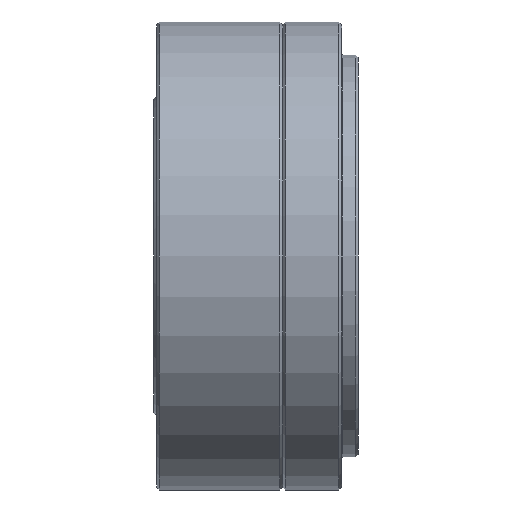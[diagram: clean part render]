
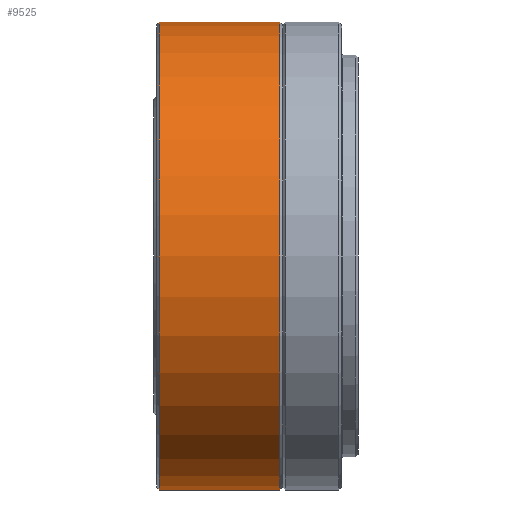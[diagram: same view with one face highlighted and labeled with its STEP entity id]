
A CAD part, front view. The second image highlights one B-rep face of the part: STEP entity #9525.
In plain terms, the highlighted cylindrical face has radius 42.5 mm (diameter 85 mm), a full revolution.
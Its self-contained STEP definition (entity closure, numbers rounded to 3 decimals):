
#161 = CARTESIAN_POINT ( 'NONE',  ( -0.5, 0., 42.5 ) ) ;
#904 = ORIENTED_EDGE ( 'NONE', *, *, #3894, .T. ) ;
#953 = DIRECTION ( 'NONE',  ( 1., 0., 0. ) ) ;
#1112 = ORIENTED_EDGE ( 'NONE', *, *, #9585, .T. ) ;
#1880 = CARTESIAN_POINT ( 'NONE',  ( -22.4, 0., 42.5 ) ) ;
#2901 = DIRECTION ( 'NONE',  ( -1., 0., 0. ) ) ;
#3315 = AXIS2_PLACEMENT_3D ( 'NONE', #4204, #9675, #10793 ) ;
#3894 = EDGE_CURVE ( 'NONE', #4050, #4050, #13158, .T. ) ;
#4050 = VERTEX_POINT ( 'NONE', #161 ) ;
#4204 = CARTESIAN_POINT ( 'NONE',  ( 56.029, 0., 0. ) ) ;
#4547 = FACE_OUTER_BOUND ( 'NONE', #6568, .T. ) ;
#6346 = AXIS2_PLACEMENT_3D ( 'NONE', #7651, #953, #8737 ) ;
#6474 = CIRCLE ( 'NONE', #6346, 42.5 ) ;
#6568 = EDGE_LOOP ( 'NONE', ( #1112 ) ) ;
#7651 = CARTESIAN_POINT ( 'NONE',  ( -22.4, 0., 0. ) ) ;
#7846 = FACE_OUTER_BOUND ( 'NONE', #14238, .T. ) ;
#8737 = DIRECTION ( 'NONE',  ( 0., 0., 1. ) ) ;
#9513 = CARTESIAN_POINT ( 'NONE',  ( -0.5, 0., 0. ) ) ;
#9525 = ADVANCED_FACE ( 'NONE', ( #7846, #4547 ), #12986, .T. ) ;
#9585 = EDGE_CURVE ( 'NONE', #13161, #13161, #6474, .T. ) ;
#9675 = DIRECTION ( 'NONE',  ( 1., 0., 0. ) ) ;
#10626 = DIRECTION ( 'NONE',  ( 0., 0., 1. ) ) ;
#10793 = DIRECTION ( 'NONE',  ( 0., 0., -1. ) ) ;
#12821 = AXIS2_PLACEMENT_3D ( 'NONE', #9513, #2901, #10626 ) ;
#12986 = CYLINDRICAL_SURFACE ( 'NONE', #3315, 42.5 ) ;
#13158 = CIRCLE ( 'NONE', #12821, 42.5 ) ;
#13161 = VERTEX_POINT ( 'NONE', #1880 ) ;
#14238 = EDGE_LOOP ( 'NONE', ( #904 ) ) ;
